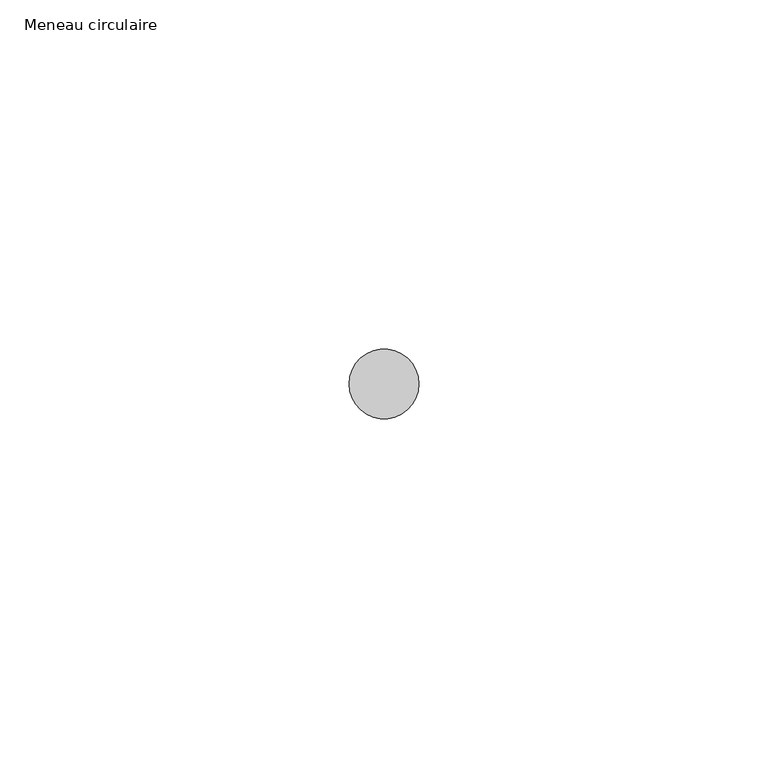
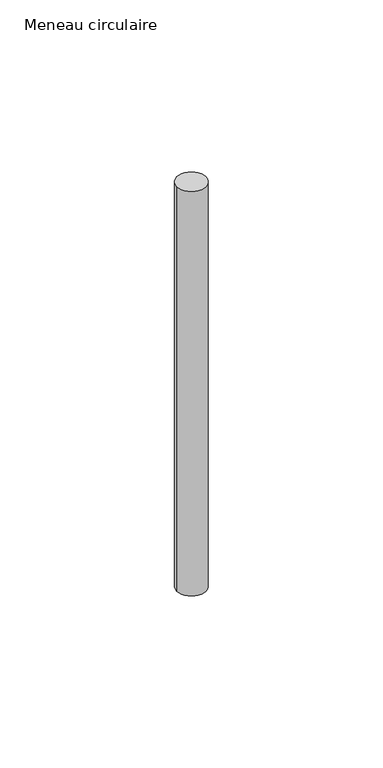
"""IFC4 building model written with IfcOpenShell, lengths in millimetres: member geometry, Meneau circulaire : Diamètre 1cm."""

from ifc_helpers import new_model, si_unit, point, frame, frame_2d, origin, place, context, project, spatial, circle_curve, trimmed, segment, composite_curve, outline, extrude, source, transform, mapped, element, save


def meneau_circulaire_cfb38b93(model_context):
    return source(origin(), model_context, "Body", "SweptSolid", [
        extrude(outline(composite_curve([segment(trimmed(circle_curve(frame_2d((-5.0, 0.0)), 5.0), [point((0.0, 0.0))], [point((-10.0, 0.0))], False, "CARTESIAN"), True, "CONTINUOUS"), segment(trimmed(circle_curve(frame_2d((-5.0, 0.0)), 5.0), [point((-10.0, 0.0))], [point((0.0, 0.0))], False, "CARTESIAN"), True, "CONTINUOUS")], self_intersect=False)), frame((0.0, 0.0, -146.4211122), z_axis=(0.0, 0.0, 1.0), x_axis=(1.0, 0.0, 0.0)), (0.0, 0.0, 1.0), 146.4211122),
    ])


if __name__ == "__main__":
    model = new_model("IFC4")
    model_context = context("Model", 3, world=origin())
    ifc_project = project(units=[si_unit("LENGTHUNIT", "METRE", prefix="MILLI")], contexts=[model_context])
    site = spatial("IfcSite", under=ifc_project)
    building = spatial("IfcBuilding", under=site)
    placement = place(None, origin())
    meneau_circulaire_shape = meneau_circulaire_cfb38b93(model_context)
    element("IfcMember", 1, ObjectType="Meneau circulaire : Diamètre 1cm", at=placement, inside=building, context=model_context, shape_type="MappedRepresentation", body=[
        mapped(meneau_circulaire_shape, transform((0.0, 0.0, 0.0), x_axis=(1.0, 0.0, 0.0), y_axis=(0.0, 1.0, 0.0), z_axis=(0.0, 0.0, 1.0))),
    ])
    save(model, "model.ifc")
